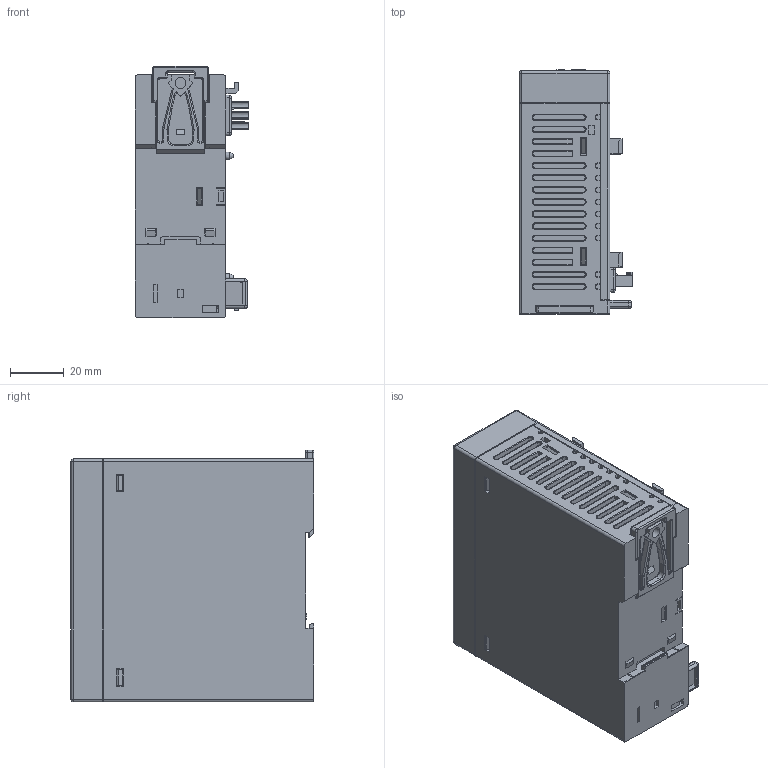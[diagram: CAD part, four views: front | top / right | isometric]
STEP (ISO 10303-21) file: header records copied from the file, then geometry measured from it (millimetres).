
FILE_DESCRIPTION((''),'2;1');
FILE_NAME('XCPU-POWER-MODULE-2A-DCOVER','2022-06-20T22:49:41',('Jacky Chang'),(''),'CREO PARAMETRIC BY PTC INC, 2021284','CREO PARAMETRIC BY PTC INC, 2021284','');
FILE_SCHEMA(('CONFIG_CONTROL_DESIGN'));
Length unit declared in the file: millimetre
Products named in the file (1): XCPU-POWER-MODULE-2A-DCOVER
Bounding box: 42.1 x 90.3 x 93.25 mm (x, y, z)
Volume: 265282.9 mm3; surface area: 36964.4 mm2
Topology: 1 solids, 2 shells, 1574 faces, 3922 edges, 2422 vertices
Faces by surface type: plane 881, cylinder 407, torus 133, cone 110, sphere 29, bspline 14
Entity records: 47621 total; most frequent: CARTESIAN_POINT 9939, ORIENTED_EDGE 7844, DIRECTION 7780, EDGE_CURVE 3922, VECTOR 2744, LINE 2744, AXIS2_PLACEMENT_3D 2518, VERTEX_POINT 2422
